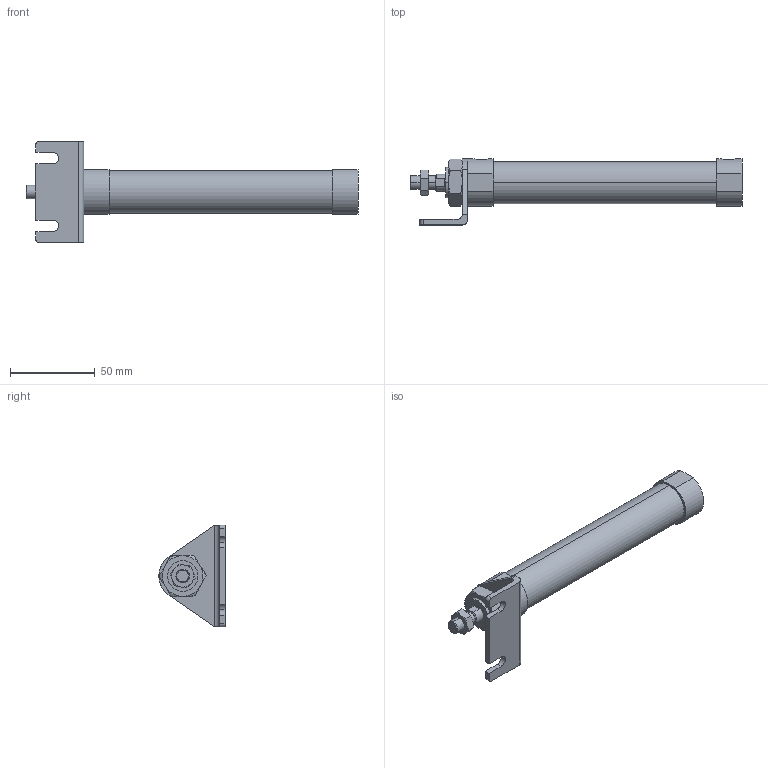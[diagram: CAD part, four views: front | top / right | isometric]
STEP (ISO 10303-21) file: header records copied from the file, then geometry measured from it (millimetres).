
FILE_DESCRIPTION (( 'STEP AP203' ), '1' );
FILE_NAME ('JGND2-20-100-L.STEP', '2016-08-04T02:30:20', ( '' ), ( '' ), 'SwSTEP 2.0', 'SolidWorks 2014', '' );
FILE_SCHEMA (( 'CONFIG_CONTROL_DESIGN' ));
Length unit declared in the file: millimetre
Products named in the file (5): JGND2-20-100-L; J#2-20-L; J#2-20-100(P)
Assembly tree (4 placements, depth 2):
  JGND2-20-100-L
    J#2-20-100(P)
    (unnamed)
    (unnamed)
    J#2-20-L
Bounding box: 196 x 39 x 60 mm (x, y, z)
Volume: 97073.3 mm3; surface area: 24689.3 mm2
Topology: 4 solids, 4 shells, 111 faces, 255 edges, 160 vertices
Faces by surface type: plane 49, cylinder 34, torus 24, cone 4
Entity records: 4004 total; most frequent: CARTESIAN_POINT 989, DIRECTION 531, ORIENTED_EDGE 510, EDGE_CURVE 255, AXIS2_PLACEMENT_3D 214, VERTEX_POINT 160, EDGE_LOOP 125, FACE_OUTER_BOUND 111
